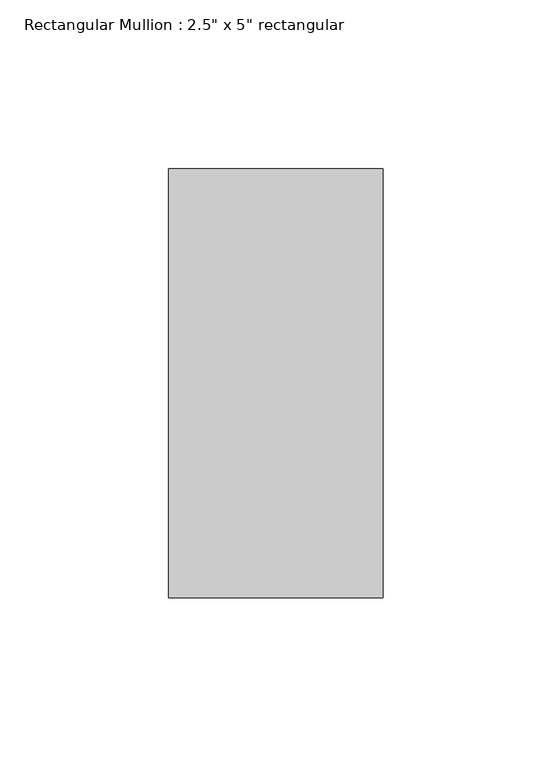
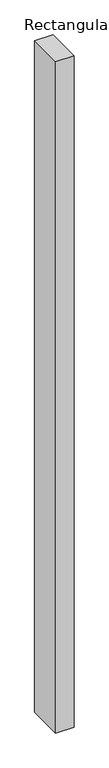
"""IFC4 building model written with IfcOpenShell, lengths in millimetres: member geometry."""

from ifc_helpers import new_model, si_unit, frame, origin, place, context, project, spatial, polyline, outline, extrude, source, transform, mapped, element, save


def member_c5eeba41(model_context):
    return source(origin(), model_context, "Body", "SweptSolid", [
        extrude(outline(polyline([(0.0, 63.5), (0.0, -63.5), (-63.5, -63.5), (-63.5, 63.5), (0.0, 63.5)])), frame((0.0, 0.0, -2470.15), z_axis=(0.0, 0.0, 1.0), x_axis=(1.0, 0.0, 0.0)), (0.0, 0.0, 1.0), 2470.15),
    ])


if __name__ == "__main__":
    model = new_model("IFC4")
    model_context = context("Model", 3, world=origin())
    ifc_project = project(units=[si_unit("LENGTHUNIT", "METRE", prefix="MILLI")], contexts=[model_context])
    site = spatial("IfcSite", under=ifc_project)
    building = spatial("IfcBuilding", under=site)
    placement = place(None, origin())
    member_shape = member_c5eeba41(model_context)
    element("IfcMember", 1, ObjectType="Rectangular Mullion : 2.5\" x 5\" rectangular", at=placement, inside=building, context=model_context, shape_type="MappedRepresentation", body=[
        mapped(member_shape, transform((0.0, 0.0, 0.0), x_axis=(1.0, 0.0, 0.0), y_axis=(0.0, 1.0, 0.0), z_axis=(0.0, 0.0, 1.0))),
    ])
    save(model, "model.ifc")
